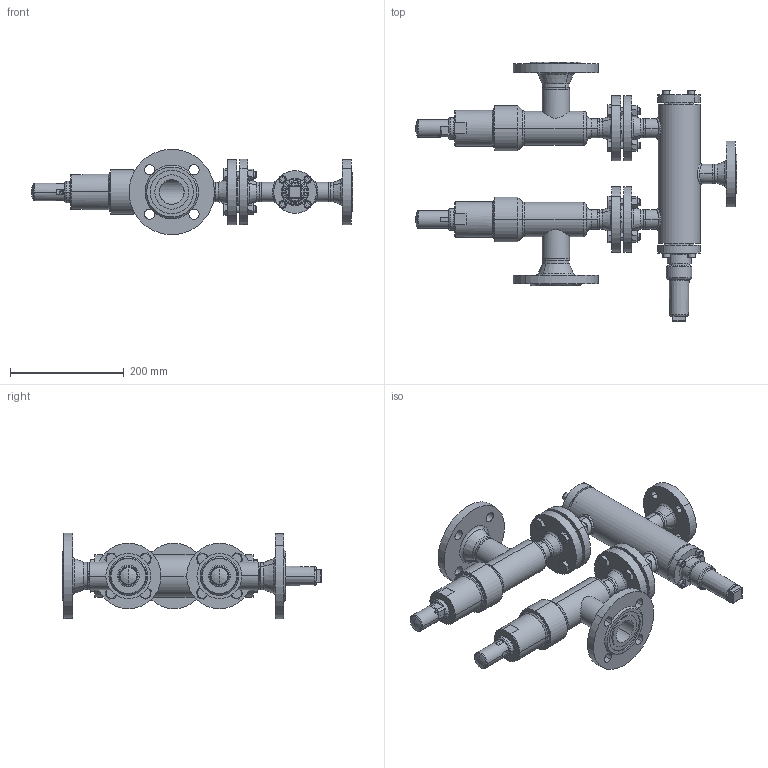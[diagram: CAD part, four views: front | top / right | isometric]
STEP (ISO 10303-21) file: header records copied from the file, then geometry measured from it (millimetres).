
FILE_DESCRIPTION (( 'STEP AP214' ), '1' );
FILE_NAME ('WVR-SVUB_1C8FL_DN25_DIN-FL.STEP', '2010-09-08T11:28:47', ( 'Eckhard Grams' ), ( 'AWP Kälte Klima Armaturen GmbH' ), 'SwSTEP 2.0', 'SolidWorks 2002296', '' );
FILE_SCHEMA (( 'AUTOMOTIVE_DESIGN' ));
Length unit declared in the file: millimetre
Products named in the file (30): WVR-SVUB_1C8FL_DN25_DIN-FL; Sechskantschraube-DIN933_M12x 50; SVUB 45720D12-DN25(40)_DIN; Flachdichtg-Alu-DN20-25; Gehkpl 45720E12-5030001; Rohrstutzen-A 45700E12-5036004_DN25(40)_Standard; Geh 45700E12-5034004_DN25; bead Geh,kpl 45720E12-2_Standard; bead Geh,kpl 45720E12-1_Standard; Flansch-DIN2635-Nut_PS40_DIN-Flansch-DN040_PS40-Nut; Haube 45700E11-5260003_DN20-25; Kappe SVA-SVU-ORV_DN10-40 (M27x1,5)_Standard; WVR24020D12-DN025_DIN-FL-N-F_PS40_Standard; WVB-R23000E13_Deck+Schr-DN25-32_Standard; Deckel23000E13-DN25-32_Standard; Kappe 16402-13_DN10-32 (M36x2)_Standard; AVR26300E13_Deck+Schr-DN25-32_Standard; Deckel26300E13-DN25-32_Standard; Zylinderschraube-DIN912_M 8x  25; Geh,kpl24020E12-DN25_DIN-FL-N-F_PS40_Standard; Flansch-DIN2635-Nut_PS40_DIN-Flansch-DN025_PS40-Nut; Flansch-DIN2635-Feder_PS40_DIN-Flansch-DN025_PS40-Feder; Geh,kpl24000E12_DN25_R1_PS40_Standard; Gehäuse24000E12-DN25_R1_PS40_Standard; Rohrstutzen-24000E12-DN25_R1_Standard; Schw-24000E12-DN25_Standard; beadC4020-12-3_Standard; beadC4020-12-2_Standard; beadC4020-12-1_Standard; Sechskantmutter-DIN934_M12
Assembly tree (57 placements, depth 5):
  WVR-SVUB_1C8FL_DN25_DIN-FL
    Sechskantmutter-DIN934_M12  x8
    Sechskantschraube-DIN933_M12x 50  x8
    SVUB 45720D12-DN25(40)_DIN  x2
      Flachdichtg-Alu-DN20-25
      Gehkpl 45720E12-5030001
        bead Geh,kpl 45720E12-1_Standard
        Geh 45700E12-5034004_DN25
        Flansch-DIN2635-Nut_PS40_DIN-Flansch-DN025_PS40-Nut
        Rohrstutzen-A 45700E12-5036004_DN25(40)_Standard
        Flansch-DIN2635-Nut_PS40_DIN-Flansch-DN040_PS40-Nut
        bead Geh,kpl 45720E12-2_Standard
      Kappe SVA-SVU-ORV_DN10-40 (M27x1,5)_Standard
      Haube 45700E11-5260003_DN20-25
    WVR24020D12-DN025_DIN-FL-N-F_PS40_Standard
      Kappe 16402-13_DN10-32 (M36x2)_Standard
      AVR26300E13_Deck+Schr-DN25-32_Standard
        Deckel26300E13-DN25-32_Standard
        Zylinderschraube-DIN912_M 8x  25  x4
      WVB-R23000E13_Deck+Schr-DN25-32_Standard
        Zylinderschraube-DIN912_M 8x  25  x4
        Deckel23000E13-DN25-32_Standard
      Geh,kpl24020E12-DN25_DIN-FL-N-F_PS40_Standard
        Flansch-DIN2635-Nut_PS40_DIN-Flansch-DN025_PS40-Nut
        Flansch-DIN2635-Feder_PS40_DIN-Flansch-DN025_PS40-Feder  x2
        beadC4020-12-1_Standard
        beadC4020-12-3_Standard
        beadC4020-12-2_Standard
        Geh,kpl24000E12_DN25_R1_PS40_Standard
          Rohrstutzen-24000E12-DN25_R1_Standard  x3
          Schw-24000E12-DN25_Standard  x3
          Gehäuse24000E12-DN25_R1_PS40_Standard
Bounding box: 564 x 455.5 x 149.43 mm (x, y, z)
Volume: 3140235.4 mm3; surface area: 778720.6 mm2
Topology: 58 solids, 58 shells, 1341 faces, 3141 edges, 1965 vertices
Faces by surface type: cylinder 496, plane 377, cone 311, torus 95, bspline 54, sphere 8
Entity records: 41897 total; most frequent: CARTESIAN_POINT 26306, DIRECTION 2873, ORIENTED_EDGE 2730, EDGE_CURVE 1365, AXIS2_PLACEMENT_3D 1221, VERTEX_POINT 856, EDGE_LOOP 681, CIRCLE 616
